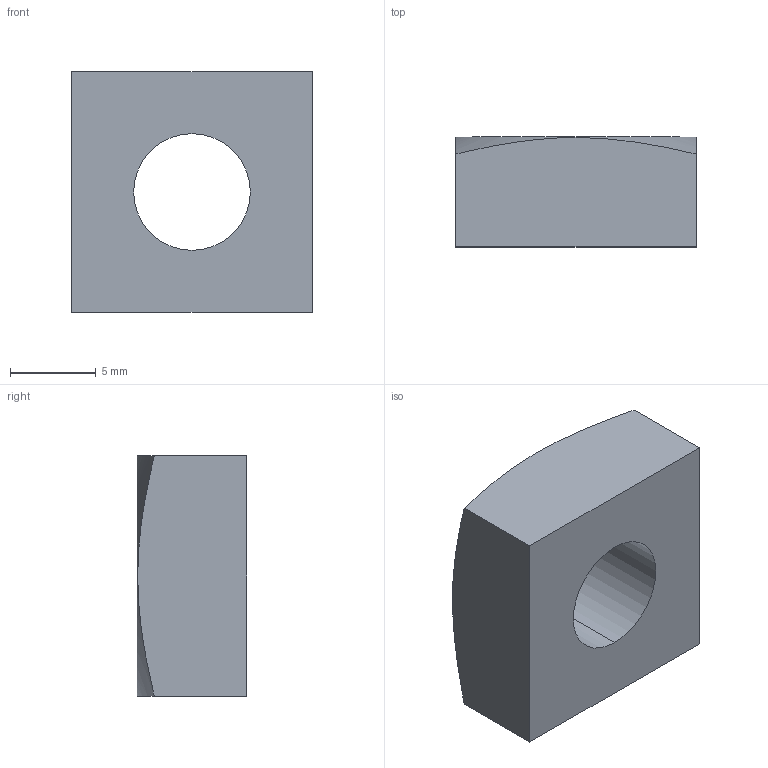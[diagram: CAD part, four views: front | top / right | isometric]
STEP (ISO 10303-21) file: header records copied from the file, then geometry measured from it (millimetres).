
FILE_DESCRIPTION (( 'STEP AP203' ), '1' );
FILE_NAME ('DBS08M8.STEP', '2018-11-09T00:41:44', ( '' ), ( '' ), 'SwSTEP 2.0', 'SolidWorks 2012', '' );
FILE_SCHEMA (( 'CONFIG_CONTROL_DESIGN' ));
Length unit declared in the file: millimetre
Products named in the file (1): DBS08M8
Bounding box: 14 x 6.4 x 14 mm (x, y, z)
Volume: 1008.1 mm3; surface area: 795.8 mm2
Topology: 1 solids, 1 shells, 10 faces, 24 edges, 16 vertices
Faces by surface type: plane 6, cone 2, cylinder 2
Entity records: 409 total; most frequent: CARTESIAN_POINT 97, ORIENTED_EDGE 48, DIRECTION 46, EDGE_CURVE 24, AXIS2_PLACEMENT_3D 17, VERTEX_POINT 16, EDGE_LOOP 12, VECTOR 12
